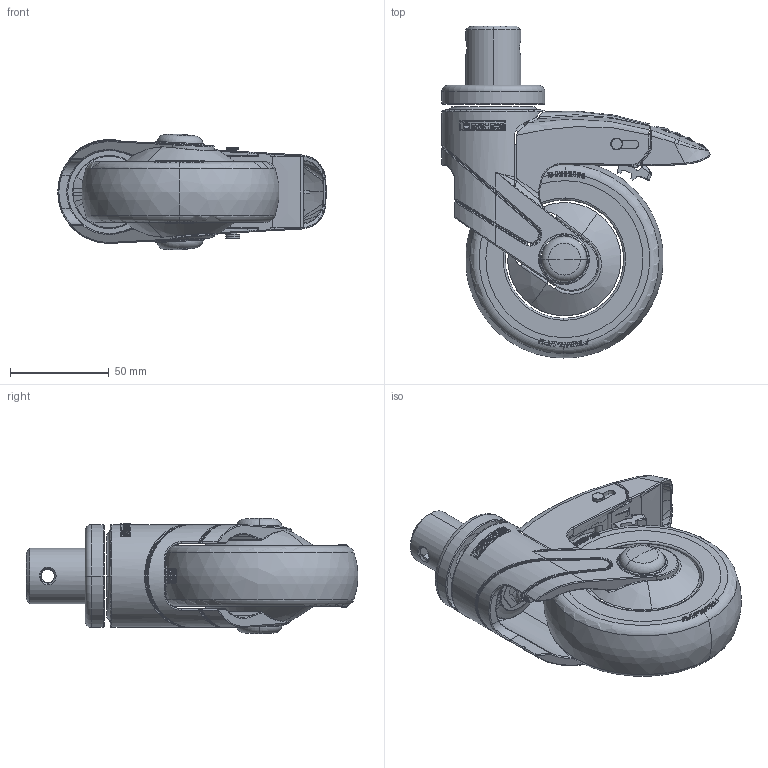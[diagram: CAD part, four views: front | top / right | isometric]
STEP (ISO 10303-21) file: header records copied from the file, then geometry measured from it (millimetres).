
FILE_DESCRIPTION((''),'2;1');
FILE_NAME('PRT0006','2025-08-18T11:13:24',('Administrator'),(''),'CREO PARAMETRIC BY PTC INC, 2022124','CREO PARAMETRIC BY PTC INC, 2022124','');
FILE_SCHEMA(('AUTOMOTIVE_DESIGN { 1 0 10303 214 1 1 1 1 }'));
Products named in the file (1): PRT0006
Bounding box: 135.72 x 168 x 58.65 mm (x, y, z)
Surface area: 58339.3 mm2 (no closed solid volume)
Topology: 0 solids, 73 shells, 558 faces, 2899 edges, 2334 vertices
Faces by surface type: bspline 210, cylinder 142, plane 106, torus 83, cone 11, sphere 4, extrusion 2
Entity records: 50337 total; most frequent: CARTESIAN_POINT 27072, ORIENTED_EDGE 3779, DIRECTION 3156, EDGE_CURVE 2889, VERTEX_POINT 2334, B_SPLINE_CURVE_WITH_KNOTS 1309, AXIS2_PLACEMENT_3D 1213, CIRCLE 857
